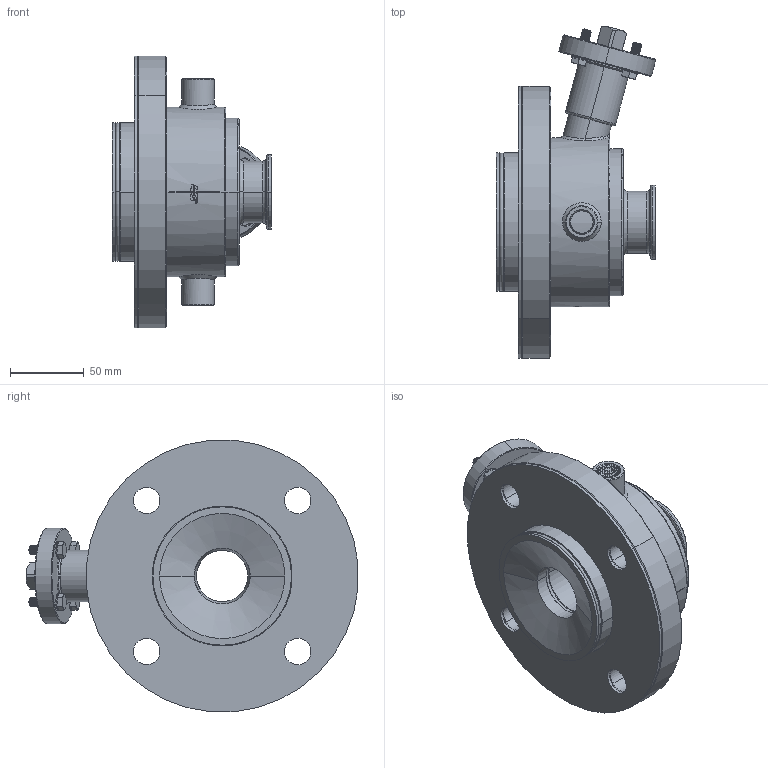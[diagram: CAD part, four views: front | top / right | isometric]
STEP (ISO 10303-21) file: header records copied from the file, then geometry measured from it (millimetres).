
FILE_DESCRIPTION((''),'2;1');
FILE_NAME('153030E63410_SW0001','2024-12-06T14:57:30',('tecnico2'),('CDM Tecnoconsulting'),'CREO PARAMETRIC BY PTC INC, 2024063','CREO PARAMETRIC BY PTC INC, 2024063','');
FILE_SCHEMA(('CONFIG_CONTROL_DESIGN','SHAPE_APPEARANCE_LAYERS_GROUPS'));
Products named in the file (1): 153030E63410_SW0001
Bounding box: 108.11 x 225.33 x 184.3 mm (x, y, z)
Volume: 1038239.8 mm3; surface area: 206288.6 mm2
Topology: 2 solids, 2 shells, 1471 faces, 3929 edges, 2509 vertices
Faces by surface type: cylinder 539, plane 442, bspline 186, cone 180, torus 66, extrusion 54, sphere 4
Entity records: 172287 total; most frequent: CARTESIAN_POINT 123923, ORIENTED_EDGE 7838, DIRECTION 5867, PRESENTATION_STYLE_ASSIGNMENT 4318, STYLED_ITEM 3975, CURVE_STYLE 3973, EDGE_CURVE 3919, VERTEX_POINT 2509
